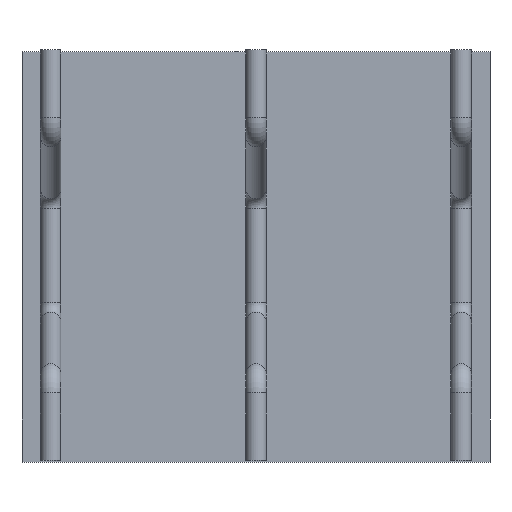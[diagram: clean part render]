
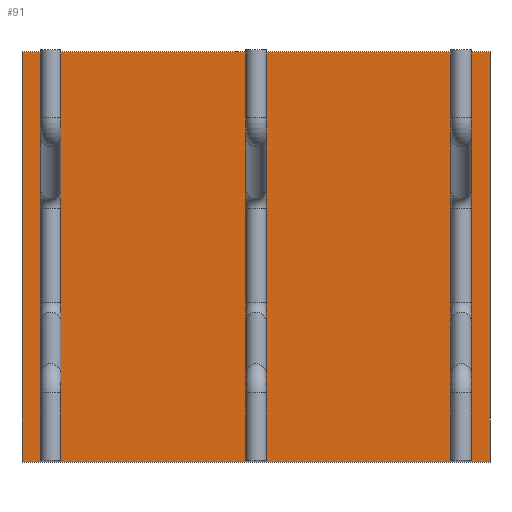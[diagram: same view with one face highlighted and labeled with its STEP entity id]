
A CAD part, top view. The second image highlights one B-rep face of the part: STEP entity #91.
In plain terms, the highlighted planar face has unit normal (0, 0, 1).
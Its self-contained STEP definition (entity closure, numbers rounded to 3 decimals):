
#52=CARTESIAN_POINT('Axis2P3D Location',(0.,0.,0.)) ;
#57=CARTESIAN_POINT('Line Origine',(0.,500.,0.)) ;
#61=CARTESIAN_POINT('Vertex',(570.,500.,0.)) ;
#63=CARTESIAN_POINT('Vertex',(-570.,500.,0.)) ;
#66=CARTESIAN_POINT('Line Origine',(-570.,0.,0.)) ;
#70=CARTESIAN_POINT('Vertex',(-570.,-500.,0.)) ;
#73=CARTESIAN_POINT('Line Origine',(0.,-500.,0.)) ;
#77=CARTESIAN_POINT('Vertex',(570.,-500.,0.)) ;
#80=CARTESIAN_POINT('Line Origine',(570.,0.,0.)) ;
#53=DIRECTION('Axis2P3D Direction',(0.,0.,1.)) ;
#54=DIRECTION('Axis2P3D XDirection',(1.,0.,0.)) ;
#58=DIRECTION('Vector Direction',(1.,0.,0.)) ;
#67=DIRECTION('Vector Direction',(0.,1.,0.)) ;
#74=DIRECTION('Vector Direction',(-1.,0.,0.)) ;
#81=DIRECTION('Vector Direction',(0.,-1.,0.)) ;
#55=AXIS2_PLACEMENT_3D('Plane Axis2P3D',#52,#53,#54) ;
#86=ORIENTED_EDGE('',*,*,#65,.T.) ;
#87=ORIENTED_EDGE('',*,*,#72,.T.) ;
#88=ORIENTED_EDGE('',*,*,#79,.T.) ;
#89=ORIENTED_EDGE('',*,*,#84,.T.) ;
#59=VECTOR('Line Direction',#58,1.) ;
#68=VECTOR('Line Direction',#67,1.) ;
#75=VECTOR('Line Direction',#74,1.) ;
#82=VECTOR('Line Direction',#81,1.) ;
#91=ADVANCED_FACE('Fill.1',(#90),#56,.T.) ;
#65=EDGE_CURVE('',#62,#64,#60,.F.) ;
#72=EDGE_CURVE('',#64,#71,#69,.F.) ;
#79=EDGE_CURVE('',#71,#78,#76,.F.) ;
#84=EDGE_CURVE('',#78,#62,#83,.F.) ;
#85=EDGE_LOOP('',(#86,#87,#88,#89)) ;
#90=FACE_OUTER_BOUND('',#85,.T.) ;
#60=LINE('Line',#57,#59) ;
#69=LINE('Line',#66,#68) ;
#76=LINE('Line',#73,#75) ;
#83=LINE('Line',#80,#82) ;
#56=PLANE('',#55) ;
#62=VERTEX_POINT('',#61) ;
#64=VERTEX_POINT('',#63) ;
#71=VERTEX_POINT('',#70) ;
#78=VERTEX_POINT('',#77) ;
